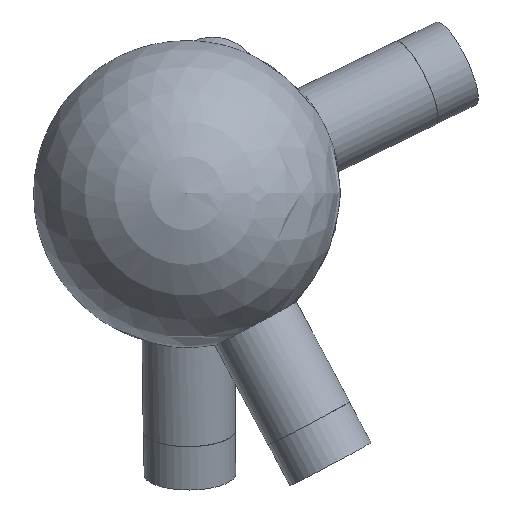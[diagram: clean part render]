
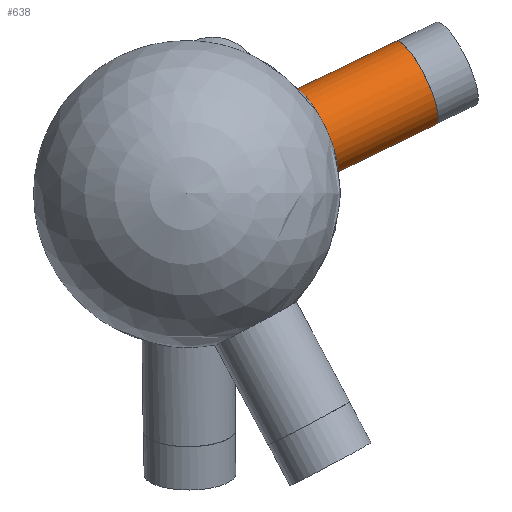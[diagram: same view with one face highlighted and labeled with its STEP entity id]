
A CAD part, top view. The second image highlights one B-rep face of the part: STEP entity #638.
In plain terms, the highlighted cylindrical face has radius 6 mm (diameter 12 mm), a full revolution.
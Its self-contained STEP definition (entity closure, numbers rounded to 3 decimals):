
#35 = SPHERICAL_SURFACE('',#36,20.);
#36 = AXIS2_PLACEMENT_3D('',#37,#38,#39);
#37 = CARTESIAN_POINT('',(0.,0.,0.));
#38 = DIRECTION('',(0.,0.,1.));
#39 = DIRECTION('',(1.,0.,-0.));
#186 = EDGE_CURVE('',#187,#187,#189,.T.);
#187 = VERTEX_POINT('',#188);
#188 = CARTESIAN_POINT('',(14.053,13.451,
    -4.646));
#189 = SURFACE_CURVE('',#190,(#195,#257),.PCURVE_S1.);
#190 = CIRCLE('',#191,6.);
#191 = AXIS2_PLACEMENT_3D('',#192,#193,#194);
#192 = CARTESIAN_POINT('',(16.663,8.048,
    -4.646));
#193 = DIRECTION('',(0.873,0.422,-0.243));
#194 = DIRECTION('',(-0.435,0.9,0.));
#195 = PCURVE('',#35,#196);
#196 = DEFINITIONAL_REPRESENTATION('',(#197),#256);
#197 = B_SPLINE_CURVE_WITH_KNOTS('',8,(#198,#199,#200,#201,#202,#203,
    #204,#205,#206,#207,#208,#209,#210,#211,#212,#213,#214,#215,#216,
    #217,#218,#219,#220,#221,#222,#223,#224,#225,#226,#227,#228,#229,
    #230,#231,#232,#233,#234,#235,#236,#237,#238,#239,#240,#241,#242,
    #243,#244,#245,#246,#247,#248,#249,#250,#251,#252,#253,#254,#255),
  .UNSPECIFIED.,.F.,.F.,(9,7,7,7,7,7,7,7,9),(0.,0.785,
    1.473,2.675,3.577,4.254,
    4.761,5.522,6.283),.UNSPECIFIED.);
#198 = CARTESIAN_POINT('',(0.763,-0.234));
#199 = CARTESIAN_POINT('',(0.761,-0.205));
#200 = CARTESIAN_POINT('',(0.756,-0.176));
#201 = CARTESIAN_POINT('',(0.747,-0.147));
#202 = CARTESIAN_POINT('',(0.736,-0.12));
#203 = CARTESIAN_POINT('',(0.721,-0.094));
#204 = CARTESIAN_POINT('',(0.705,-0.069));
#205 = CARTESIAN_POINT('',(0.685,-0.047));
#206 = CARTESIAN_POINT('',(0.645,-0.009));
#207 = CARTESIAN_POINT('',(0.625,0.007));
#208 = CARTESIAN_POINT('',(0.603,0.021));
#209 = CARTESIAN_POINT('',(0.58,0.033));
#210 = CARTESIAN_POINT('',(0.555,0.043));
#211 = CARTESIAN_POINT('',(0.531,0.05));
#212 = CARTESIAN_POINT('',(0.505,0.055));
#213 = CARTESIAN_POINT('',(0.434,0.062));
#214 = CARTESIAN_POINT('',(0.389,0.058));
#215 = CARTESIAN_POINT('',(0.344,0.048));
#216 = CARTESIAN_POINT('',(0.301,0.029));
#217 = CARTESIAN_POINT('',(0.262,0.004));
#218 = CARTESIAN_POINT('',(0.228,-0.027));
#219 = CARTESIAN_POINT('',(0.2,-0.062));
#220 = CARTESIAN_POINT('',(0.161,-0.131));
#221 = CARTESIAN_POINT('',(0.147,-0.163));
#222 = CARTESIAN_POINT('',(0.138,-0.196));
#223 = CARTESIAN_POINT('',(0.133,-0.229));
#224 = CARTESIAN_POINT('',(0.131,-0.264));
#225 = CARTESIAN_POINT('',(0.135,-0.298));
#226 = CARTESIAN_POINT('',(0.142,-0.331));
#227 = CARTESIAN_POINT('',(0.164,-0.387));
#228 = CARTESIAN_POINT('',(0.176,-0.41));
#229 = CARTESIAN_POINT('',(0.19,-0.432));
#230 = CARTESIAN_POINT('',(0.207,-0.452));
#231 = CARTESIAN_POINT('',(0.226,-0.471));
#232 = CARTESIAN_POINT('',(0.248,-0.488));
#233 = CARTESIAN_POINT('',(0.271,-0.503));
#234 = CARTESIAN_POINT('',(0.316,-0.525));
#235 = CARTESIAN_POINT('',(0.336,-0.533));
#236 = CARTESIAN_POINT('',(0.357,-0.54));
#237 = CARTESIAN_POINT('',(0.378,-0.545));
#238 = CARTESIAN_POINT('',(0.4,-0.549));
#239 = CARTESIAN_POINT('',(0.422,-0.551));
#240 = CARTESIAN_POINT('',(0.445,-0.551));
#241 = CARTESIAN_POINT('',(0.501,-0.549));
#242 = CARTESIAN_POINT('',(0.534,-0.544));
#243 = CARTESIAN_POINT('',(0.566,-0.535));
#244 = CARTESIAN_POINT('',(0.596,-0.523));
#245 = CARTESIAN_POINT('',(0.625,-0.508));
#246 = CARTESIAN_POINT('',(0.651,-0.49));
#247 = CARTESIAN_POINT('',(0.673,-0.47));
#248 = CARTESIAN_POINT('',(0.713,-0.426));
#249 = CARTESIAN_POINT('',(0.73,-0.401));
#250 = CARTESIAN_POINT('',(0.744,-0.375));
#251 = CARTESIAN_POINT('',(0.754,-0.348));
#252 = CARTESIAN_POINT('',(0.761,-0.32));
#253 = CARTESIAN_POINT('',(0.765,-0.292));
#254 = CARTESIAN_POINT('',(0.766,-0.263));
#255 = CARTESIAN_POINT('',(0.763,-0.234));
#256 = ( GEOMETRIC_REPRESENTATION_CONTEXT(2) 
PARAMETRIC_REPRESENTATION_CONTEXT() REPRESENTATION_CONTEXT('2D SPACE',''
  ) );
#257 = PCURVE('',#258,#263);
#258 = CYLINDRICAL_SURFACE('',#259,6.);
#259 = AXIS2_PLACEMENT_3D('',#260,#261,#262);
#260 = CARTESIAN_POINT('',(0.,0.,0.));
#261 = DIRECTION('',(0.873,0.422,-0.243));
#262 = DIRECTION('',(-0.435,0.9,0.));
#263 = DEFINITIONAL_REPRESENTATION('',(#264),#268);
#264 = LINE('',#265,#266);
#265 = CARTESIAN_POINT('',(0.,19.079));
#266 = VECTOR('',#267,1.);
#267 = DIRECTION('',(1.,0.));
#268 = ( GEOMETRIC_REPRESENTATION_CONTEXT(2) 
PARAMETRIC_REPRESENTATION_CONTEXT() REPRESENTATION_CONTEXT('2D SPACE',''
  ) );
#638 = ADVANCED_FACE('',(#639),#258,.T.);
#639 = FACE_BOUND('',#640,.T.);
#640 = EDGE_LOOP('',(#641,#664,#691,#692));
#641 = ORIENTED_EDGE('',*,*,#642,.T.);
#642 = EDGE_CURVE('',#187,#643,#645,.T.);
#643 = VERTEX_POINT('',#644);
#644 = CARTESIAN_POINT('',(27.141,19.772,
    -8.294));
#645 = SEAM_CURVE('',#646,(#650,#657),.PCURVE_S1.);
#646 = LINE('',#647,#648);
#647 = CARTESIAN_POINT('',(-2.61,5.403,
    0.));
#648 = VECTOR('',#649,1.);
#649 = DIRECTION('',(0.873,0.422,-0.243));
#650 = PCURVE('',#258,#651);
#651 = DEFINITIONAL_REPRESENTATION('',(#652),#656);
#652 = LINE('',#653,#654);
#653 = CARTESIAN_POINT('',(6.283,-0.));
#654 = VECTOR('',#655,1.);
#655 = DIRECTION('',(0.,1.));
#656 = ( GEOMETRIC_REPRESENTATION_CONTEXT(2) 
PARAMETRIC_REPRESENTATION_CONTEXT() REPRESENTATION_CONTEXT('2D SPACE',''
  ) );
#657 = PCURVE('',#258,#658);
#658 = DEFINITIONAL_REPRESENTATION('',(#659),#663);
#659 = LINE('',#660,#661);
#660 = CARTESIAN_POINT('',(0.,-0.));
#661 = VECTOR('',#662,1.);
#662 = DIRECTION('',(0.,1.));
#663 = ( GEOMETRIC_REPRESENTATION_CONTEXT(2) 
PARAMETRIC_REPRESENTATION_CONTEXT() REPRESENTATION_CONTEXT('2D SPACE',''
  ) );
#664 = ORIENTED_EDGE('',*,*,#665,.F.);
#665 = EDGE_CURVE('',#643,#643,#666,.T.);
#666 = SURFACE_CURVE('',#667,(#672,#679),.PCURVE_S1.);
#667 = CIRCLE('',#668,6.);
#668 = AXIS2_PLACEMENT_3D('',#669,#670,#671);
#669 = CARTESIAN_POINT('',(29.751,14.369,
    -8.294));
#670 = DIRECTION('',(0.873,0.422,-0.243));
#671 = DIRECTION('',(-0.435,0.9,0.));
#672 = PCURVE('',#258,#673);
#673 = DEFINITIONAL_REPRESENTATION('',(#674),#678);
#674 = LINE('',#675,#676);
#675 = CARTESIAN_POINT('',(0.,34.064));
#676 = VECTOR('',#677,1.);
#677 = DIRECTION('',(1.,0.));
#678 = ( GEOMETRIC_REPRESENTATION_CONTEXT(2) 
PARAMETRIC_REPRESENTATION_CONTEXT() REPRESENTATION_CONTEXT('2D SPACE',''
  ) );
#679 = PCURVE('',#680,#685);
#680 = PLANE('',#681);
#681 = AXIS2_PLACEMENT_3D('',#682,#683,#684);
#682 = CARTESIAN_POINT('',(29.751,14.369,
    -8.294));
#683 = DIRECTION('',(0.873,0.422,-0.243));
#684 = DIRECTION('',(-0.435,0.9,0.));
#685 = DEFINITIONAL_REPRESENTATION('',(#686),#690);
#686 = CIRCLE('',#687,6.);
#687 = AXIS2_PLACEMENT_2D('',#688,#689);
#688 = CARTESIAN_POINT('',(0.,0.));
#689 = DIRECTION('',(1.,0.));
#690 = ( GEOMETRIC_REPRESENTATION_CONTEXT(2) 
PARAMETRIC_REPRESENTATION_CONTEXT() REPRESENTATION_CONTEXT('2D SPACE',''
  ) );
#691 = ORIENTED_EDGE('',*,*,#642,.F.);
#692 = ORIENTED_EDGE('',*,*,#186,.T.);
